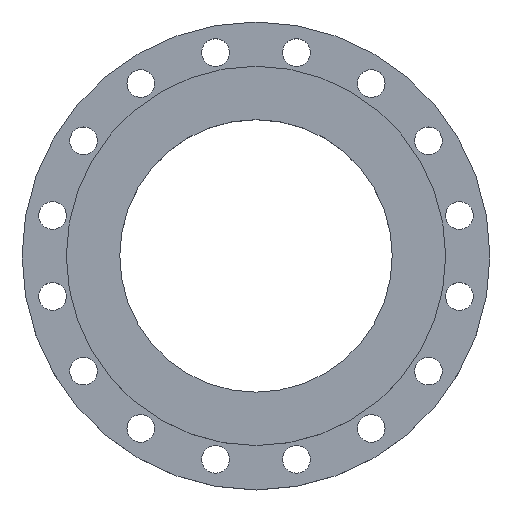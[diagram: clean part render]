
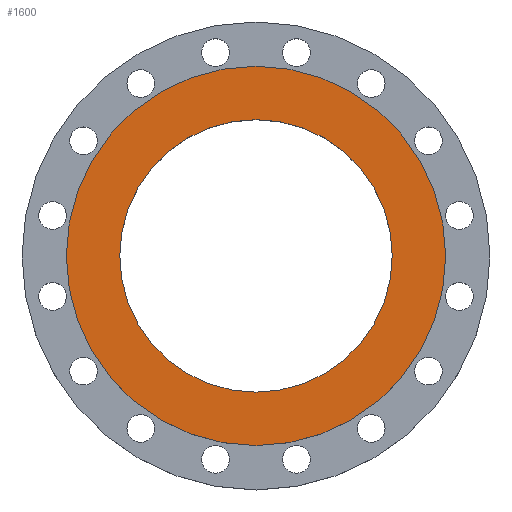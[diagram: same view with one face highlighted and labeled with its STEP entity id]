
A CAD part, top view. The second image highlights one B-rep face of the part: STEP entity #1600.
In plain terms, the highlighted planar face has unit normal (0, 0, 1).
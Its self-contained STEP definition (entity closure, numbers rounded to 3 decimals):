
#125 = CARTESIAN_POINT ( 'NONE',  ( -267.5, 0., 42. ) ) ;
#133 = CARTESIAN_POINT ( 'NONE',  ( 192.2, 0., 42. ) ) ;
#138 = CARTESIAN_POINT ( 'NONE',  ( 267.5, 0., 42. ) ) ;
#291 = CARTESIAN_POINT ( 'NONE',  ( -192.2, 0., 42. ) ) ;
#293 = CIRCLE ( 'NONE', #302, 267.5 ) ;
#302 = AXIS2_PLACEMENT_3D ( 'NONE', #1368, #1719, #539 ) ;
#392 = VERTEX_POINT ( 'NONE', #138 ) ;
#396 = VERTEX_POINT ( 'NONE', #133 ) ;
#404 = VERTEX_POINT ( 'NONE', #125 ) ;
#414 = EDGE_LOOP ( 'NONE', ( #427, #425 ) ) ;
#425 = ORIENTED_EDGE ( 'NONE', *, *, #714, .F. ) ;
#427 = ORIENTED_EDGE ( 'NONE', *, *, #945, .F. ) ;
#428 = ORIENTED_EDGE ( 'NONE', *, *, #1576, .T. ) ;
#429 = ORIENTED_EDGE ( 'NONE', *, *, #1472, .T. ) ;
#446 = DIRECTION ( 'NONE',  ( 0., 0., 1. ) ) ;
#539 = DIRECTION ( 'NONE',  ( 1., 0., 0. ) ) ;
#550 = EDGE_LOOP ( 'NONE', ( #429, #428 ) ) ;
#568 = DIRECTION ( 'NONE',  ( 1., 0., 0. ) ) ;
#573 = CIRCLE ( 'NONE', #1768, 192.2 ) ;
#693 = VERTEX_POINT ( 'NONE', #291 ) ;
#702 = DIRECTION ( 'NONE',  ( 1., 0., 0. ) ) ;
#714 = EDGE_CURVE ( 'NONE', #693, #396, #573, .T. ) ;
#722 = PLANE ( 'NONE',  #1617 ) ;
#768 = CARTESIAN_POINT ( 'NONE',  ( 0., 0., 42. ) ) ;
#781 = CARTESIAN_POINT ( 'NONE',  ( 0., 0., 42. ) ) ;
#920 = CIRCLE ( 'NONE', #928, 267.5 ) ;
#928 = AXIS2_PLACEMENT_3D ( 'NONE', #781, #446, #1081 ) ;
#945 = EDGE_CURVE ( 'NONE', #396, #693, #977, .T. ) ;
#977 = CIRCLE ( 'NONE', #1306, 192.2 ) ;
#1081 = DIRECTION ( 'NONE',  ( 1., 0., 0. ) ) ;
#1306 = AXIS2_PLACEMENT_3D ( 'NONE', #768, #1425, #1744 ) ;
#1368 = CARTESIAN_POINT ( 'NONE',  ( 0., 0., 42. ) ) ;
#1380 = CARTESIAN_POINT ( 'NONE',  ( 192.2, 0., 42. ) ) ;
#1425 = DIRECTION ( 'NONE',  ( 0., 0., 1. ) ) ;
#1472 = EDGE_CURVE ( 'NONE', #392, #404, #920, .T. ) ;
#1480 = CARTESIAN_POINT ( 'NONE',  ( 0., 0., 42. ) ) ;
#1499 = FACE_OUTER_BOUND ( 'NONE', #550, .T. ) ;
#1576 = EDGE_CURVE ( 'NONE', #404, #392, #293, .T. ) ;
#1600 = ADVANCED_FACE ( 'NONE', ( #1499, #1784 ), #722, .T. ) ;
#1617 = AXIS2_PLACEMENT_3D ( 'NONE', #1380, #1730, #568 ) ;
#1719 = DIRECTION ( 'NONE',  ( 0., 0., 1. ) ) ;
#1730 = DIRECTION ( 'NONE',  ( 0., 0., 1. ) ) ;
#1744 = DIRECTION ( 'NONE',  ( 1., 0., 0. ) ) ;
#1768 = AXIS2_PLACEMENT_3D ( 'NONE', #1480, #1773, #702 ) ;
#1773 = DIRECTION ( 'NONE',  ( 0., 0., 1. ) ) ;
#1784 = FACE_BOUND ( 'NONE', #414, .T. ) ;
